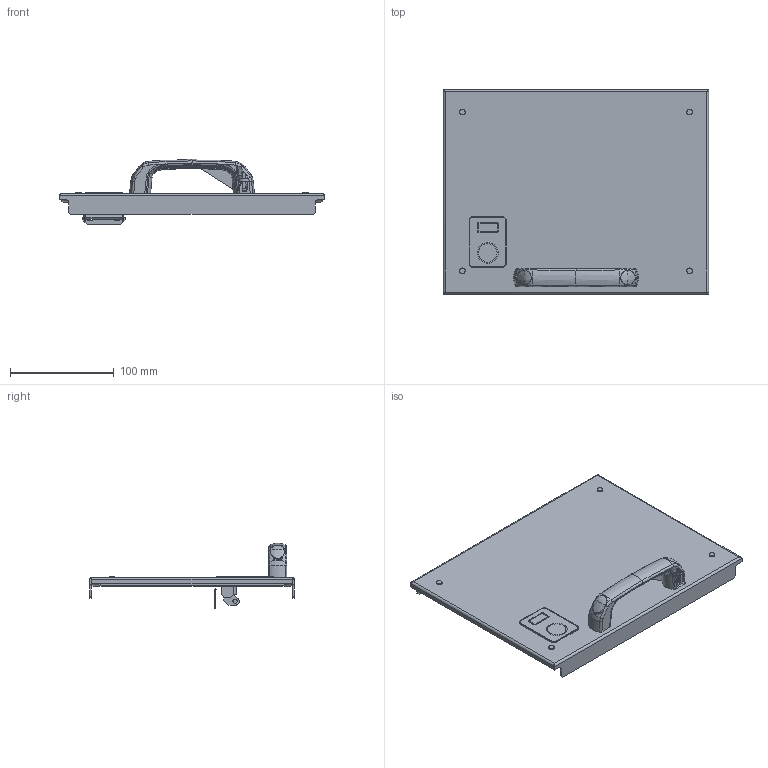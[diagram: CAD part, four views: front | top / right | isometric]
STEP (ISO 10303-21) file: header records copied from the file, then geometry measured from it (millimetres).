
FILE_DESCRIPTION(('CAx-IF Rec.Pracs.---Model Styling and Organization---1.2---2011-12-15','CAx-IF Rec.Pracs.---Geometric and Assembly Validation Properties---4.1---2014-06-16','CAx-IF Rec.Pracs.---PMI Polyline Presentation---2.0---2013-05-24'),'2;1');
FILE_NAME('R5M2W4M2BF.stp','2021-05-05T12:21:58+03:00',(''),(''),'STEP Interface 4.4 by CT CoreTechnologie','3D_Evolution4.4 by CT CoreTechnologie','');
FILE_SCHEMA(('AUTOMOTIVE_DESIGN { 1 0 10303 214 1 1 1 1 }'));
Length unit declared in the file: millimetre
Products named in the file (15): R5M2W4M2BF; 5-GOST 11371-78 (DIN 125) PA 6.6_5-GOST 11371-78 (DIN 125) PA 6.6; RB.1215.01.00.0 ÑÁ_-05; AC00C061_AC00C061; Ì6õ12-A5100231_straight; RB.1503.00.06.0_-00; RB.1503.00.07.0_-00; RB.1503.00.08.0_'­ ª«¥¥­­ ï'; RB.1215.01.01.0_-05; RB.1503.00.03.0_123; RB.1503.00.05.0_123; PF 7x14 RAMmcc 2.0_1x2_; 4.444.001; PR.DT477.100.02; PR.DT477.100.01
Assembly tree (17 placements, depth 3):
  R5M2W4M2BF
    5-GOST 11371-78 (DIN 125) PA 6.6_5-GOST 11371-78 (DIN 125) PA 6.6  x4
    RB.1215.01.00.0 ÑÁ_-05
      AC00C061_AC00C061
      Ì6õ12-A5100231_straight
      RB.1503.00.06.0_-00
      RB.1503.00.07.0_-00
      RB.1215.01.01.0_-05
      RB.1503.00.03.0_123
      RB.1503.00.05.0_123
      PF 7x14 RAMmcc 2.0_1x2_
    4.444.001
      PR.DT477.100.02  x2
      PR.DT477.100.01
  RB.1503.00.08.0_'­ ª«¥¥­­ ï'
Bounding box: 255.5 x 197 x 62.85 mm (x, y, z)
Surface area: 177997.1 mm2 (no closed solid volume)
Topology: 0 solids, 23 shells, 1350 faces, 3276 edges, 1953 vertices
Faces by surface type: bspline 724, plane 427, cylinder 199
Entity records: 59795 total; most frequent: CARTESIAN_POINT 31969, ORIENTED_EDGE 5994, DIRECTION 5320, EDGE_CURVE 2997, AXIS2_PLACEMENT_3D 2007, VERTEX_POINT 1804, CIRCLE 1432, VECTOR 1306
